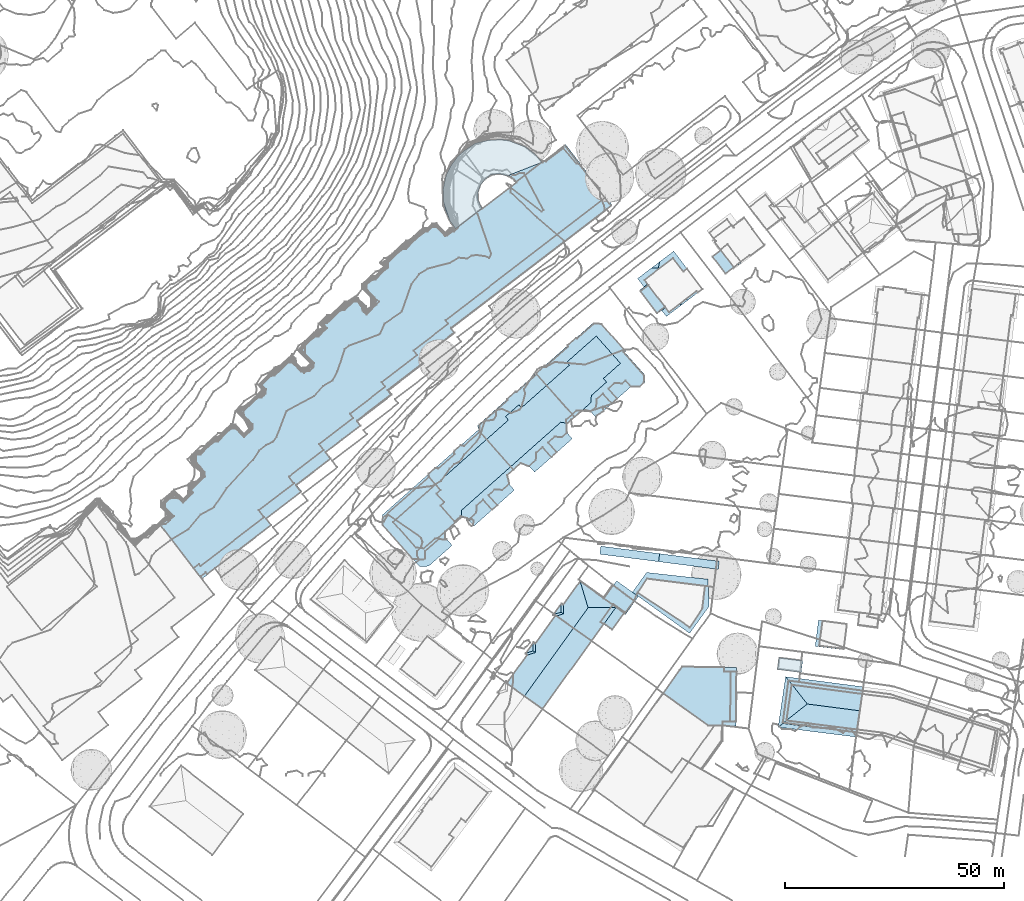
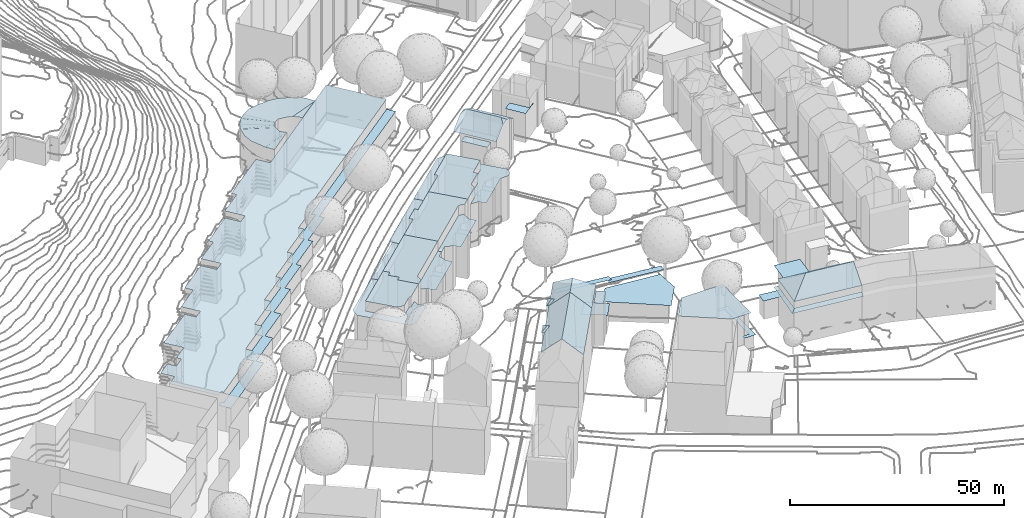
# Not in any storey, part 71 of 477: 30 roofs.
"""IFC4 building model written with IfcOpenShell, lengths in metres."""

from ifc_helpers import new_model, si_unit, frame, origin_with_axes, place, context, subcontext, project, spatial, polygons, element, save


model = new_model("IFC4")

# Units and contexts
model_context = context("Model", 3, precision=1e-05, world=origin_with_axes())
body_context = subcontext(model_context, "Body", "Model", "MODEL_VIEW")
ifc_project = project(units=[si_unit("AREAUNIT", "SQUARE_METRE"), si_unit("LENGTHUNIT", "METRE")], contexts=[model_context])

# Sites, building
site_1_placement = place(None, origin_with_axes())
site_1 = spatial("IfcSite", under=ifc_project, at=site_1_placement, Name="Topoexport Site")
site_2_placement = place(site_1_placement, origin_with_axes())
site_2 = spatial("IfcSite", under=site_1, at=site_2_placement, Name="TPX_BUILDINGS")
building_1_placement = place(site_2_placement, frame((340.8067320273, 67.2771160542, 499.5586), z_axis=(0.0, 0.0, 1.0), x_axis=(1.0, 0.0, 0.0)))
building_1 = spatial("IfcBuilding", under=site_2, at=building_1_placement, Name="Building 0", CompositionType="ELEMENT")

# Roofs
roof_1_placement = place(None, frame((340.8067320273, 67.2771160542, 499.5586), z_axis=(0.0, 0.0, 1.0), x_axis=(1.0, 0.0, 0.0)))
element("IfcRoof", 1, at=roof_1_placement, inside=building_1, Name="Roof 0", context=body_context, shape_type="Tessellation", body=[
    polygons([(15.7719999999, -6.5732000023, 12.5587), (18.0460000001, 0.2822999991, 12.5587), (18.5399999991, -1.9267000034, 12.5587), (19.6270000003, -3.1523000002, 12.5587), (7.5209999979, -7.7851000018, 12.5587), (10.3849999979, -11.3564000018, 12.5587), (18.8200000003, 2.2441999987, 12.5587), (19.4529999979, 1.5312999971, 12.5587), (8.8339999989, -9.6103000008, 12.5587), (7.5929999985, -9.2568000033, 12.5587)], [[[3, 2, 1]], [[4, 3, 1]], [[6, 1, 5]], [[8, 7, 2]], [[2, 7, 5]], [[1, 2, 5]], [[5, 10, 9]], [[5, 9, 6]]]),
])
roof_2_placement = place(None, frame((340.8067320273, 67.2771160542, 499.5586), z_axis=(0.0, 0.0, 1.0), x_axis=(1.0, 0.0, 0.0)))
element("IfcRoof", 2, at=roof_2_placement, inside=building_1, Name="Roof 1", context=body_context, shape_type="Tessellation", body=[
    polygons([(13.2949999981, 8.4668999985, 12.5588), (1.6530000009, -1.8671000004, 12.5588), (5.9439999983, 5.8046999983, 12.5588), (-0.262000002, 0.2959999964, 12.5588), (1.4869999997, 1.8486999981, 12.5588), (11.3770000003, 10.6269999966, 12.5588), (7.3550000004, 7.0566999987, 12.5588)], [[[3, 2, 1]], [[5, 4, 2]], [[7, 1, 6]], [[5, 2, 3]], [[3, 1, 7]]]),
])
roof_3_placement = place(None, frame((340.8067320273, 67.2771160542, 499.5586), z_axis=(0.0, 0.0, 1.0), x_axis=(1.0, 0.0, 0.0)))
element("IfcRoof", 3, at=roof_3_placement, inside=building_1, Name="Roof 2", context=body_context, shape_type="Tessellation", body=[
    polygons([(2.7839999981, -3.1435000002, 15.3595), (1.6530000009, -1.8671000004, 15.3595), (13.2949999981, 8.4667999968, 15.3595), (3.6270000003, -5.9501000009, 15.3595), (18.8200000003, 2.2441999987, 15.3595), (7.5209999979, -7.7851000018, 15.3595), (7.5969999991, -9.3476000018, 15.3595), (6.2359999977, -10.5556000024, 15.3595), (2.8039999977, -6.6796000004, 15.3595), (1.862999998, -3.9589000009, 15.3595)], [[[3, 2, 1]], [[6, 5, 4]], [[3, 4, 5]], [[1, 4, 3]], [[6, 8, 7]], [[4, 9, 6]], [[6, 9, 8]], [[4, 1, 10]]]),
])

# Building
building_2_placement = place(site_2_placement, frame((330.2977320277, 56.1951160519, 500.0165), z_axis=(0.0, 0.0, 1.0), x_axis=(1.0, 0.0, 0.0)))
building_2 = spatial("IfcBuilding", under=site_2, at=building_2_placement, Name="Building 1", CompositionType="ELEMENT")

# Roofs
roof_4_placement = place(None, frame((330.2977320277, 56.1951160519, 500.0165), z_axis=(0.0, 0.0, 1.0), x_axis=(1.0, 0.0, 0.0)))
element("IfcRoof", 4, at=roof_4_placement, inside=building_2, Name="Roof 0", context=body_context, shape_type="Tessellation", body=[
    polygons([(10.2469999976, 11.3779000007, 12.1009), (12.1620000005, 9.2149000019, 12.1009), (2.4809999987, 0.6220999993, 12.1009), (14.3189999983, -1.6279000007, 12.1008), (14.3640000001, -2.9472000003, 12.1008), (12.6629999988, -3.0986000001, 12.1008), (15.9149999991, -4.6942999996, 12.1008), (12.0229999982, -3.1611000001, 12.1008), (10.5579999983, -9.4501999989, 12.1008), (-0.120000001, 0.134800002, 12.1009), (-0.0140000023, 2.2705000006, 12.1009), (7.6979999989, -5.254900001, 12.1008), (9.4509999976, -5.4442999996, 12.1008), (8.5199999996, -9.5995999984, 12.1008), (6.9910000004, -7.8768999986, 12.1008)], [[[3, 2, 1]], [[6, 5, 4]], [[5, 6, 7]], [[7, 6, 8]], [[8, 9, 7]], [[3, 11, 10]], [[11, 3, 1]], [[3, 10, 12]], [[13, 12, 9]], [[9, 15, 14]], [[15, 9, 12]], [[12, 10, 15]], [[13, 9, 8]]]),
])
roof_5_placement = place(None, frame((330.2977320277, 56.1951160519, 500.0165), z_axis=(0.0, 0.0, 1.0), x_axis=(1.0, 0.0, 0.0)))
element("IfcRoof", 5, at=roof_5_placement, inside=building_2, Name="Roof 1", context=body_context, shape_type="Tessellation", body=[
    polygons([(13.2929999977, 7.938500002, 14.9016), (12.3719999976, 7.1231000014, 14.9016), (12.1620000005, 9.2149000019, 14.9016), (2.4809999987, 0.6220999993, 14.9016), (13.3129999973, 4.4024000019, 14.9016), (14.1359999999, 5.1319000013, 14.9016), (7.6979999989, -5.254900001, 14.9016), (12.0229999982, -3.1611000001, 14.9016), (12.6629999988, -3.0986000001, 14.9016), (9.4509999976, -5.4442999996, 14.9016), (16.7449999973, 0.5263999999, 14.9016)], [[[3, 2, 1]], [[2, 3, 4]], [[6, 2, 5]], [[2, 4, 5]], [[8, 4, 7]], [[9, 5, 8]], [[8, 7, 10]], [[9, 11, 5]], [[8, 5, 4]]]),
])

# Building
building_3_placement = place(site_2_placement, frame((352.5117320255, 77.5340160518, 499.5586), z_axis=(0.0, 0.0, 1.0), x_axis=(1.0, 0.0, 0.0)))
building_3 = spatial("IfcBuilding", under=site_2, at=building_3_placement, Name="Building 2", CompositionType="ELEMENT")

# Roofs
roof_6_placement = place(None, frame((352.5117320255, 77.5340160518, 499.5586), z_axis=(0.0, 0.0, 1.0), x_axis=(1.0, 0.0, 0.0)))
element("IfcRoof", 6, at=roof_6_placement, inside=building_3, Name="Roof 0", context=body_context, shape_type="Tessellation", body=[
    polygons([(16.4270000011, -5.8603999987, 12.5587), (19.9140000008, -0.2245999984, 12.5587), (21.1750000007, -1.6455000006, 12.5587), (12.5510000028, -9.2998000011, 12.5587), (11.4640000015, -8.0742000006, 12.5587), (19.8509999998, 1.9219000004, 12.5587), (9.3599999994, -7.2949000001, 12.5587), (18.5270000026, 2.1182000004, 12.5587), (7.7479999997, -8.7256000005, 12.5587), (7.1150000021, -8.0126999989, 12.5587)], [[[3, 2, 1]], [[1, 5, 4]], [[5, 1, 2]], [[7, 2, 6]], [[7, 6, 8]], [[7, 5, 2]], [[10, 9, 7]], [[7, 8, 10]]]),
])
roof_7_placement = place(None, frame((352.5117320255, 77.5340160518, 499.5586), z_axis=(0.0, 0.0, 1.0), x_axis=(1.0, 0.0, 0.0)))
element("IfcRoof", 7, at=roof_7_placement, inside=building_3, Name="Roof 1", context=body_context, shape_type="Tessellation", body=[
    polygons([(9.5549999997, 5.4375, 12.5588), (8.9560000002, 6.1123000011, 12.5588), (15.2990000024, 10.5371000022, 12.5588), (5.8819999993, 3.384800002, 12.5588), (6.3170000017, 7.4219000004, 12.5588), (6.5600000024, 2.621100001, 12.5588), (1.5899999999, -1.7901000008, 12.5588), (0.0, 0.0, 12.5588), (13.0700000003, 13.0361000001, 12.5588), (8.2180000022, 9.1084000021, 12.5588), (12.8830000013, 13.25, 12.5588), (-0.3279999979, 0.370099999, 12.5588), (-0.2809999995, 0.4121000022, 12.5588), (-0.4979999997, 1.3729999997, 12.5588)], [[[3, 2, 1]], [[5, 4, 2]], [[7, 6, 4]], [[4, 8, 7]], [[5, 8, 4]], [[2, 3, 9]], [[9, 11, 10]], [[5, 2, 10]], [[13, 12, 8]], [[5, 14, 13]], [[8, 5, 13]], [[10, 2, 9]]]),
])
roof_8_placement = place(None, frame((352.5117320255, 77.5340160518, 499.5586), z_axis=(0.0, 0.0, 1.0), x_axis=(1.0, 0.0, 0.0)))
element("IfcRoof", 8, at=roof_8_placement, inside=building_3, Name="Roof 2", context=body_context, shape_type="Tessellation", body=[
    polygons([(1.5899999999, -1.7901000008, 15.3595), (6.5600000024, 2.621100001, 15.3595), (7.1150000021, -8.0126999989, 15.3595), (18.5270000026, 2.1182000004, 15.3595), (9.5549999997, 5.4375, 15.3595), (5.8819999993, 3.384800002, 15.3595), (8.9560000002, 6.1123000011, 15.3595), (21.7280000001, 3.3291000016, 15.3595), (20.1009999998, 1.884800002, 15.3595), (15.3010000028, 10.5381000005, 15.3595)], [[[3, 2, 1]], [[5, 2, 4]], [[6, 2, 5]], [[6, 5, 7]], [[2, 3, 4]], [[9, 8, 4]], [[10, 5, 4]], [[10, 4, 8]]]),
])

# Building
building_4_placement = place(site_2_placement, frame((365.5087320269, 90.6648160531, 499.5586), z_axis=(0.0, 0.0, 1.0), x_axis=(1.0, 0.0, 0.0)))
building_4 = spatial("IfcBuilding", under=site_2, at=building_4_placement, Name="Building 3", CompositionType="ELEMENT")

# Roofs
roof_9_placement = place(None, frame((365.5087320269, 90.6648160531, 499.5586), z_axis=(0.0, 0.0, 1.0), x_axis=(1.0, 0.0, 0.0)))
element("IfcRoof", 9, at=roof_9_placement, inside=building_4, Name="Roof 0", context=body_context, shape_type="Tessellation", body=[
    polygons([(2.305999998, -2.5908000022, 12.5588), (0.0769999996, -0.0908000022, 12.5588), (1.9189999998, 1.9239000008, 12.5588), (0.0, 0.0, 12.5588), (0.0219999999, 0.2402999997, 12.5588), (12.4389999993, -6.5107000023, 12.5587), (13.6229999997, -9.9433000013, 12.5587), (12.3619999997, -8.5234000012, 12.5587), (12.5339999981, -4.9149999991, 12.5587), (10.2949999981, -8.4140000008, 12.5587), (7.1680000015, 6.5830999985, 12.5588), (6.9290000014, 2.7188000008, 12.5588), (7.5280000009, 2.0439999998, 12.5588), (-0.1140000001, 0.1191999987, 12.5588), (9.0339999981, 8.2392999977, 12.5588), (13.6550000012, 8.6895000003, 12.5588), (12.8280000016, 11.6064999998, 12.5588), (16.0089999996, -1.8310000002, 12.5587), (21.5590000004, -2.8993999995, 12.5587), (23.7049999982, -2.8564000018, 12.5587), (24.8040000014, -0.2294000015, 12.5587), (24.7529999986, -1.9248000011, 12.5587), (14.7800000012, 11.5742999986, 12.5588), (20.3209999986, 5.3242999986, 12.5587), (15.2800000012, -1.0097000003, 12.5587), (19.186999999, 2.4589999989, 12.5587), (20.1889999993, 4.9707999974, 12.5587), (20.436999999, 5.2021999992, 12.5587)], [[[3, 2, 1]], [[2, 5, 4]], [[8, 7, 6]], [[7, 9, 6]], [[8, 6, 10]], [[3, 5, 2]], [[3, 12, 11]], [[13, 12, 3]], [[14, 4, 5]], [[12, 15, 11]], [[15, 12, 16]], [[15, 16, 17]], [[13, 3, 1]], [[7, 18, 9]], [[7, 19, 18]], [[21, 19, 20]], [[22, 21, 20]], [[16, 23, 17]], [[24, 23, 16]], [[26, 25, 18]], [[26, 21, 27]], [[26, 18, 19]], [[27, 28, 24]], [[24, 16, 27]], [[27, 16, 26]], [[19, 21, 26]]]),
])
roof_10_placement = place(None, frame((365.5087320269, 90.6648160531, 499.5586), z_axis=(0.0, 0.0, 1.0), x_axis=(1.0, 0.0, 0.0)))
element("IfcRoof", 10, at=roof_10_placement, inside=building_4, Name="Roof 1", context=body_context, shape_type="Tessellation", body=[
    polygons([(15.2800000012, -1.0097000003, 15.3595), (2.3040000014, -2.5927000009, 15.3595), (7.5280000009, 2.0439999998, 15.3595), (6.9290000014, 2.7188000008, 15.3595), (13.6550000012, 8.6895000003, 15.3595), (19.186999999, 2.4589999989, 15.3595), (12.5339999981, -4.9149999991, 15.3595), (12.4389999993, -6.5107000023, 15.3595), (8.7309999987, -9.8016999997, 15.3595), (16.0089999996, -1.8310000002, 15.3595)], [[[3, 2, 1]], [[3, 5, 4]], [[6, 5, 3]], [[6, 3, 1]], [[2, 7, 1]], [[9, 8, 7]], [[10, 1, 7]], [[9, 7, 2]]]),
])

# Building
building_5_placement = place(site_2_placement, frame((388.6417320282, 40.6092160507, 499.4665), z_axis=(0.0, 0.0, 1.0), x_axis=(1.0, 0.0, 0.0)))
building_5 = spatial("IfcBuilding", under=site_2, at=building_5_placement, Name="Building 5", CompositionType="ELEMENT")

# Roof
roof_11_placement = place(None, frame((388.6417320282, 40.6092160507, 499.4665), z_axis=(0.0, 0.0, 1.0), x_axis=(1.0, 0.0, 0.0)))
element("IfcRoof", 11, at=roof_11_placement, inside=building_5, Name="Roof 0", context=body_context, shape_type="Tessellation", body=[
    polygons([(11.8759999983, -9.2441999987, 5.8824), (-1.2030000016, 0.1748000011, 5.8824), (2.0449999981, 4.6855000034, 5.8824), (16.0639999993, 3.1279000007, 5.8824), (16.3559999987, -3.0253999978, 5.8824)], [[[3, 2, 1]], [[3, 5, 4]], [[5, 3, 1]]]),
])

# Building
building_6_placement = place(site_2_placement, frame((369.4907320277, 35.7234160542, 499.6315), z_axis=(0.0, 0.0, 1.0), x_axis=(1.0, 0.0, 0.0)))
building_6 = spatial("IfcBuilding", under=site_2, at=building_6_placement, Name="Building 6", CompositionType="ELEMENT")

# Roofs
roof_12_placement = place(None, frame((369.4907320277, 35.7234160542, 499.6315), z_axis=(0.0, 0.0, 1.0), x_axis=(1.0, 0.0, 0.0)))
element("IfcRoof", 12, at=roof_12_placement, inside=building_6, Name="Roof 0", context=body_context, shape_type="Tessellation", body=[
    polygons([(14.1779999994, 1.6035999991, 12.0918), (13.4670000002, 2.1171999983, 12.0918), (13.6149999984, 2.3232999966, 12.0918), (13.237999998, -3.6523000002, 12.0918), (16.2009999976, 0.4609999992, 12.0918), (11.3649999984, -2.3027000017, 12.0918)], [[[3, 2, 1]], [[5, 1, 4]], [[1, 5, 3]], [[6, 4, 1]]]),
])
roof_13_placement = place(None, frame((369.4907320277, 35.7234160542, 499.6315), z_axis=(0.0, 0.0, 1.0), x_axis=(1.0, 0.0, 0.0)))
element("IfcRoof", 13, at=roof_13_placement, inside=building_6, Name="Roof 1", context=body_context, shape_type="Tessellation", body=[
    polygons([(16.4129999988, -0.004800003, 5.3015), (16.2009999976, 0.4609999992, 5.3015), (19.2829999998, 4.0986999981, 5.3015), (13.6149999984, 2.3232999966, 5.3015), (16.0519999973, 0.2548999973, 5.3015), (14.3460000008, 7.6523999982, 5.3015), (13.4670000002, 2.1171999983, 5.3015), (11.4210000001, 3.5898999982, 5.3015)], [[[3, 2, 1]], [[2, 3, 4]], [[5, 1, 2]], [[6, 4, 3]], [[4, 8, 7]], [[8, 4, 6]]]),
])
roof_14_placement = place(None, frame((369.4907320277, 35.7234160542, 499.6315), z_axis=(0.0, 0.0, 1.0), x_axis=(1.0, 0.0, 0.0)))
element("IfcRoof", 14, at=roof_14_placement, inside=building_6, Name="Roof 2", context=body_context, shape_type="Tessellation", body=[
    polygons([(4.4399999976, -3.1738000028, 18.1722), (2.1369999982, 0.1005999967, 14.9805), (7.8079999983, 1.5029999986, 18.1722), (8.5969999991, -6.1464000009, 13.9786), (14.1779999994, 1.6035999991, 13.9786), (11.4210000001, 3.5898999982, 13.9786), (5.9979999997, 7.495199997, 13.9786), (2.1679999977, 2.1728999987, 13.9786), (0.5480000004, -0.3916000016, 14.1346), (1.6199999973, 0.4736999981, 14.9805), (0.0249999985, -0.0175000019, 14.1326), (1.7650000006, 2.4628999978, 13.9786), (1.6469999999, 2.5478999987, 13.9786), (0.0, 0.0, 14.1066), (-0.1240000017, 0.0888999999, 13.9786)], [[[3, 2, 1]], [[1, 4, 3]], [[5, 3, 4]], [[7, 3, 6]], [[3, 5, 6]], [[3, 7, 8]], [[3, 8, 2]], [[9, 1, 2]], [[2, 10, 9]], [[11, 9, 10]], [[10, 2, 12]], [[12, 2, 8]], [[12, 13, 10]], [[13, 11, 10]], [[14, 11, 13]], [[15, 14, 13]]]),
])

# Building
building_7_placement = place(site_2_placement, frame((211.8297320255, 101.9383160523, 526.7541), z_axis=(0.0, 0.0, 1.0), x_axis=(1.0, 0.0, 0.0)))
building_7 = spatial("IfcBuilding", under=site_2, at=building_7_placement, Name="Building 18", CompositionType="ELEMENT")

# Roofs
roof_15_placement = place(None, frame((211.8297320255, 101.9383160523, 526.7541), z_axis=(0.0, 0.0, 1.0), x_axis=(1.0, 0.0, 0.0)))
element("IfcRoof", 15, at=roof_15_placement, inside=building_7, Name="Roof 53", context=body_context, shape_type="Tessellation", body=[
    polygons([(195.4570000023, -54.0927999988, -22.4111), (181.5910000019, -54.183600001, -22.2671), (181.8260000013, -52.3467000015, -22.4111), (195.2220000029, -55.9296999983, -22.2671)], [[[3, 2, 1]], [[4, 1, 2]]]),
])
roof_16_placement = place(None, frame((211.8297320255, 101.9383160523, 526.7541), z_axis=(0.0, 0.0, 1.0), x_axis=(1.0, 0.0, 0.0)))
element("IfcRoof", 16, at=roof_16_placement, inside=building_7, Name="Roof 54", context=body_context, shape_type="Tessellation", body=[
    polygons([(168.1480000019, -52.4618999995, -21.5471), (182.3289999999, -52.4101999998, -21.8351), (182.0930000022, -54.2481000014, -21.5472), (168.3830000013, -50.625, -21.8351)], [[[3, 2, 1]], [[4, 1, 2]]]),
])

# Building
building_8_placement = place(site_2_placement, frame((394.4647320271, 17.5984160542, 499.0235), z_axis=(0.0, 0.0, 1.0), x_axis=(1.0, 0.0, 0.0)))
building_8 = spatial("IfcBuilding", under=site_2, at=building_8_placement, Name="Building 22", CompositionType="ELEMENT")

# Roofs
roof_17_placement = place(None, frame((394.4647320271, 17.5984160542, 499.0235), z_axis=(0.0, 0.0, 1.0), x_axis=(1.0, 0.0, 0.0)))
element("IfcRoof", 17, at=roof_17_placement, inside=building_8, Name="Roof 0", context=body_context, shape_type="Tessellation", body=[
    polygons([(15.3619999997, -6.4326000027, 7.1923), (13.6359999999, -7.3623000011, 7.1923), (13.6490000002, -6.4091000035, 7.1923), (15.4910000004, 5.0146999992, 7.1923), (13.9409999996, 5.0370999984, 7.1923), (13.938000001, 5.995199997, 7.1923), (16.6469999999, -7.3974000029, 7.1923), (16.7989999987, 5.9619999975, 7.1923)], [[[3, 2, 1]], [[6, 5, 4]], [[7, 1, 2]], [[1, 7, 4]], [[8, 4, 7]], [[4, 8, 6]]]),
])
roof_18_placement = place(None, frame((394.4647320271, 17.5984160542, 499.0235), z_axis=(0.0, 0.0, 1.0), x_axis=(1.0, 0.0, 0.0)))
element("IfcRoof", 18, at=roof_18_placement, inside=building_8, Name="Roof 1", context=body_context, shape_type="Tessellation", body=[
    polygons([(11.8350000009, -7.3427000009, 13.8346), (10.2760000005, -7.3496000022, 13.8346), (15.5020000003, 5.9775999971, 13.8347), (3.7740000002, 5.2734999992, 13.8347), (0.0, 0.0, 13.8347), (4.3720000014, 6.1025999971, 13.8347), (15.3509999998, -7.3828000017, 13.8346)], [[[3, 2, 1]], [[4, 2, 3]], [[2, 4, 5]], [[6, 4, 3]], [[1, 7, 3]]]),
])

# Building
building_9_placement = place(site_2_placement, frame((420.8027320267, 23.1951160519, 499.3155), z_axis=(0.0, 0.0, 1.0), x_axis=(1.0, 0.0, 0.0)))
building_9 = spatial("IfcBuilding", under=site_2, at=building_9_placement, Name="Building 24", CompositionType="ELEMENT")

# Roof
roof_19_placement = place(None, frame((420.8027320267, 23.1951160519, 499.3155), z_axis=(0.0, 0.0, 1.0), x_axis=(1.0, 0.0, 0.0)))
element("IfcRoof", 19, at=roof_19_placement, inside=building_9, Name="Roof 0", context=body_context, shape_type="Tessellation", body=[
    polygons([(0.1429999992, 2.6358000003, 5.3154), (5.5839999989, 1.9297000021, 5.3154), (5.2309999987, -0.7802999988, 5.3154), (-0.2089999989, -0.0742000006, 5.3154)], [[[3, 2, 1]], [[1, 4, 3]]]),
])

# Building
building_10_placement = place(site_2_placement, frame((430.1957320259, 28.5057160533, 499.7544), z_axis=(0.0, 0.0, 1.0), x_axis=(1.0, 0.0, 0.0)))
building_10 = spatial("IfcBuilding", under=site_2, at=building_10_placement, Name="Building 29", CompositionType="ELEMENT")

# Roof
roof_20_placement = place(None, frame((430.1957320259, 28.5057160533, 499.7544), z_axis=(0.0, 0.0, 1.0), x_axis=(1.0, 0.0, 0.0)))
element("IfcRoof", 20, at=roof_20_placement, inside=building_10, Name="Roof 0", context=body_context, shape_type="Tessellation", body=[
    polygons([(-0.9419999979, -0.1044999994, 4.9065), (-0.2100000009, 5.878899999, 4.9065), (5.6020000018, -0.9053000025, 4.9065), (6.3350000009, 5.0790999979, 4.9065)], [[[3, 2, 1]], [[2, 3, 4]]]),
])

# Building
building_11_placement = place(site_2_placement, frame((358.3217320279, 20.123816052, 499.6315), z_axis=(0.0, 0.0, 1.0), x_axis=(1.0, 0.0, 0.0)))
building_11 = spatial("IfcBuilding", under=site_2, at=building_11_placement, Name="Building 30", CompositionType="ELEMENT")

# Roof
roof_21_placement = place(None, frame((358.3217320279, 20.123816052, 499.6315), z_axis=(0.0, 0.0, 1.0), x_axis=(1.0, 0.0, 0.0)))
element("IfcRoof", 21, at=roof_21_placement, inside=building_11, Name="Roof 0", context=body_context, shape_type="Tessellation", body=[
    polygons([(6.9349999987, 6.8506000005, 14.9805), (15.6089999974, 12.4248000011, 18.1722), (4.3979999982, -3.1473999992, 18.1722), (8.5529999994, -6.121100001, 13.9786), (19.7679999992, 9.4550999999, 13.9786), (6.935999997, 8.884800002, 13.9786), (6.557, 9.1581999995, 13.9786), (6.4169999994, 7.2246000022, 14.9805), (6.4149999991, 9.259800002, 13.9786), (6.4149999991, 8.9600000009, 14.1266), (11.424999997, 15.1182000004, 13.9786), (11.7170000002, 15.2071000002, 14.1346), (11.193, 15.5811000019, 14.1326), (11.0289999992, 15.4033000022, 13.9786), (10.9039999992, 15.4932000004, 13.9786), (11.0449999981, 15.688500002, 13.9786), (0.5859999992, -0.4188999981, 14.2176), (5.0409999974, 6.2529999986, 13.9786), (0.5869999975, 0.066399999, 13.9786), (0.231999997, 0.3233000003, 13.9786), (0.0659999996, 0.0918000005, 14.1506), (0.0669999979, 0.441399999, 13.9786), (0.0659999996, -0.0467999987, 14.2186), (-0.1660000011, 0.1182000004, 13.9786), (0.0, 0.0, 14.1506), (4.810999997, 6.7197999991, 14.1326), (4.6689999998, 6.5205000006, 13.9786), (4.5199999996, 6.6279999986, 13.9786)], [[[3, 2, 1]], [[3, 4, 2]], [[5, 2, 4]], [[1, 2, 6]], [[8, 1, 7]], [[7, 1, 6]], [[10, 7, 9]], [[7, 10, 8]], [[6, 2, 11]], [[11, 2, 12]], [[12, 13, 11]], [[13, 15, 14]], [[13, 14, 11]], [[13, 16, 15]], [[3, 18, 17]], [[17, 18, 19]], [[22, 21, 20]], [[20, 21, 19]], [[17, 19, 21]], [[17, 21, 23]], [[21, 22, 24]], [[25, 23, 21]], [[24, 25, 21]], [[28, 27, 26]], [[26, 27, 18]], [[18, 1, 8]], [[18, 8, 26]], [[10, 9, 28]], [[26, 8, 10]], [[28, 26, 10]], [[3, 1, 18]]]),
])

# Building
building_12_placement = place(site_2_placement, frame((389.3167320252, 109.6180160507, 499.0156), z_axis=(0.0, 0.0, 1.0), x_axis=(1.0, 0.0, 0.0)))
building_12 = spatial("IfcBuilding", under=site_2, at=building_12_placement, Name="Building 32", CompositionType="ELEMENT")

# Roofs
roof_22_placement = place(None, frame((389.3167320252, 109.6180160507, 499.0156), z_axis=(0.0, 0.0, 1.0), x_axis=(1.0, 0.0, 0.0)))
element("IfcRoof", 22, at=roof_22_placement, inside=building_12, Name="Roof 0", context=body_context, shape_type="Tessellation", body=[
    polygons([(-0.2009999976, 0.2656000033, 9.6401), (5.7160000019, -3.7118999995, 9.6401), (3.870000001, -5.111399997, 9.6401), (1.6130000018, 1.6396000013, 9.6401)], [[[3, 2, 1]], [[4, 1, 2]]]),
])
roof_23_placement = place(None, frame((389.3167320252, 109.6180160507, 499.0156), z_axis=(0.0, 0.0, 1.0), x_axis=(1.0, 0.0, 0.0)))
element("IfcRoof", 23, at=roof_23_placement, inside=building_12, Name="Roof 1", context=body_context, shape_type="Tessellation", body=[
    polygons([(4.3320000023, 6.7119000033, 13.2738), (7.5760000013, 9.1689000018, 10.965), (10.6339999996, 5.1308000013, 10.965), (13.0810000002, -0.3320999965, 11.7299), (10.9120000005, -1.9745999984, 13.2737), (10.6440000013, -1.620099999, 13.2737), (14.1560000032, 0.4814000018, 10.965), (4.0360000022, 5.2470000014, 14.3296), (2.5450000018, 5.3574000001, 13.2738), (9.2550000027, -2.6855999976, 13.7377), (3.2840000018, 4.3828000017, 13.2737), (9.4210000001, -1.8642999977, 14.3296), (9.125, -3.3290999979, 13.2737), (-0.6989999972, 2.9004000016, 10.965), (5.881000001, -5.7861999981, 10.965), (10.2460000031, -1.9247999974, 13.7447)], [[[3, 2, 1]], [[1, 4, 3]], [[6, 5, 4]], [[7, 3, 4]], [[4, 1, 6]], [[1, 9, 8]], [[8, 9, 10]], [[10, 9, 11]], [[12, 8, 10]], [[10, 11, 13]], [[14, 11, 9]], [[11, 14, 15]], [[15, 13, 11]], [[10, 13, 5]], [[16, 12, 10]], [[5, 16, 10]], [[1, 8, 6]], [[12, 16, 6]], [[5, 6, 16]], [[12, 6, 8]]]),
])

# Building
building_13_placement = place(site_2_placement, frame((405.0787320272, 122.9930160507, 499.2066), z_axis=(0.0, 0.0, 1.0), x_axis=(1.0, 0.0, 0.0)))
building_13 = spatial("IfcBuilding", under=site_2, at=building_13_placement, Name="Building 33", CompositionType="ELEMENT")

# Roof
roof_24_placement = place(None, frame((405.0787320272, 122.9930160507, 499.2066), z_axis=(0.0, 0.0, 1.0), x_axis=(1.0, 0.0, 0.0)))
element("IfcRoof", 24, at=roof_24_placement, inside=building_13, Name="Roof 0", context=body_context, shape_type="Tessellation", body=[
    polygons([(0.4899999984, -5.3691999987, 8.2642), (2.5229999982, -3.8632999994, 8.2642), (5.6070000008, -7.8857999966, 8.2642), (7.2789999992, -6.8085999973, 8.2642), (3.5839999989, -9.5458999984, 8.2642), (7.1750000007, -6.6679999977, 8.2642)], [[[3, 2, 1]], [[3, 5, 4]], [[5, 3, 1]], [[3, 4, 6]]]),
])

# Building
building_14_placement = place(site_2_placement, frame((287.111732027, 46.2742160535, 500.3625), z_axis=(0.0, 0.0, 1.0), x_axis=(1.0, 0.0, 0.0)))
building_14 = spatial("IfcBuilding", under=site_2, at=building_14_placement, Name="Building 65", CompositionType="ELEMENT")

# Roofs
roof_25_placement = place(None, frame((287.111732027, 46.2742160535, 500.3625), z_axis=(0.0, 0.0, 1.0), x_axis=(1.0, 0.0, 0.0)))
element("IfcRoof", 25, at=roof_25_placement, inside=building_14, Name="Roof 0", context=body_context, shape_type="Tessellation", body=[
    polygons([(58.2199999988, 55.8594000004, 7.1803), (95.7170000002, 83.0341999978, 7.1803), (58.932, 54.9345999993, 7.1803), (94.2949999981, 84.8827999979, 7.1803), (50.3110000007, 49.7714999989, 7.1803), (51.1259999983, 48.7148999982, 7.1803), (57.6119999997, 56.6493999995, 7.1803), (51.7800000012, 47.8662, 7.1803), (43.0359999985, 42.4872999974, 7.1803), (59.686999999, 53.9511999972, 7.1803), (52.495000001, 46.9355999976, 7.1803), (43.8249999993, 41.4657999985, 7.1803), (37.3500000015, 33.7159000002, 7.1803), (36.5020000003, 34.3154999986, 7.1803), (45.1600000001, 39.7275999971, 7.1803), (44.4059999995, 40.7099999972, 7.1803), (29.7670000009, 27.0273999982, 7.1803), (38.1750000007, 32.6425999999, 7.1803), (35.7699999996, 35.2656999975, 7.1803), (38.131000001, 32.6006000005, 7.1803), (28.7509999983, 28.3476999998, 7.1803), (30.2039999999, 26.5136999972, 7.1803), (30.180999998, 26.4892999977, 7.1803), (21.7800000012, 20.8798999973, 7.1803), (22.9389999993, 19.3740999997, 7.1803), (23.5199999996, 19.0859999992, 7.1803), (14.9120000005, 13.1963, 7.1803), (31.2809999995, 25.0595999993, 7.1803), (24.7349999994, 17.5068999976, 7.1803), (16.1149999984, 11.6327999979, 7.1803), (16.6889999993, 11.3125, 7.1803), (1.8920000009, -2.4599000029, 7.1803), (17.8409999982, 9.8154999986, 7.1803), (0.0, 0.0, 7.1803), (1.2320000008, 0.9492000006, 7.1803), (1.6050000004, 0.4657999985, 7.1803)], [[[3, 2, 1]], [[2, 4, 1]], [[6, 3, 5]], [[7, 1, 4]], [[6, 8, 3]], [[5, 3, 1]], [[8, 6, 9]], [[8, 10, 3]], [[12, 11, 8]], [[15, 14, 13]], [[16, 14, 15]], [[12, 16, 11]], [[18, 13, 17]], [[19, 16, 12]], [[8, 9, 12]], [[20, 18, 17]], [[13, 14, 21]], [[17, 22, 20]], [[14, 16, 19]], [[21, 17, 13]], [[24, 23, 22]], [[24, 25, 23]], [[25, 27, 26]], [[25, 28, 23]], [[24, 22, 17]], [[26, 28, 25]], [[30, 29, 26]], [[30, 31, 29]], [[33, 31, 32]], [[36, 35, 34]], [[36, 34, 32]], [[31, 36, 32]], [[36, 31, 30]], [[30, 26, 27]]]),
])
roof_26_placement = place(None, frame((287.111732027, 46.2742160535, 500.3625), z_axis=(0.0, 0.0, 1.0), x_axis=(1.0, 0.0, 0.0)))
element("IfcRoof", 26, at=roof_26_placement, inside=building_14, Name="Roof 4", context=body_context, shape_type="Tessellation", body=[
    polygons([(1.2320000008, 0.9492000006, 10.076), (-5.1009999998, 11.7870999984, 10.0761), (14.9120000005, 13.1963, 10.0761), (-7.5949999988, 9.8671999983, 10.0761), (0.0, 0.0, 10.0761), (-7.251000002, 14.5810999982, 10.0761), (-2.5910000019, 15.3271999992, 10.0761), (-0.1440000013, 17.2118999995, 10.0761), (28.7509999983, 28.3476999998, 10.0761), (16.1149999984, 11.6327999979, 10.076), (1.6050000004, 0.4657999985, 10.076), (21.7800000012, 20.8798999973, 10.0761), (22.9389999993, 19.373999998, 10.0761), (29.7670000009, 27.0273999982, 10.0761), (35.7699999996, 35.2656999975, 10.0761), (36.5020000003, 34.3154999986, 10.0761), (2.631000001, 20.9150999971, 10.0761), (-3.9640000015, 17.111399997, 10.0761), (-0.9030000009, 18.1963, 10.0761), (11.3370000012, 30.4052999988, 10.0761), (11.4160000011, 30.2949000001, 10.0761), (9.6420000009, 32.5976999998, 10.0761), (-0.4759999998, 24.9521999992, 10.0761), (13.373999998, 31.8007999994, 10.0761), (16.2939999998, 40.1464999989, 10.0761), (25.2809999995, 44.6347999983, 10.0761), (27.3409999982, 46.2197999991, 10.0761), (10.425999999, 35.6308999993, 10.0761), (14.9800000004, 41.8544999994, 10.0761), (22.7939999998, 47.8671999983, 10.0761), (43.0359999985, 42.4872999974, 10.0761), (43.8249999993, 41.4657999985, 10.0761), (50.3110000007, 49.7714999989, 10.0761), (39.8319999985, 58.6923999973, 10.0761), (30.1050000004, 54.7197999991, 10.0761), (24.2609999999, 50.2216999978, 10.0761), (41.8640000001, 60.2568999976, 10.0761), (57.6119999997, 56.6493999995, 10.0761), (51.1259999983, 48.7148999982, 10.0761), (58.2199999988, 55.8594000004, 10.0761), (57.8099999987, 76.0439999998, 10.0761), (94.2949999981, 84.8827999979, 10.0761), (44.4690000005, 68.7021999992, 10.0761), (37.4019999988, 61.8515999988, 10.0761), (29.3720000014, 55.6719000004, 10.0761), (38.7520000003, 64.3017999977, 10.0761), (48.7690000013, 73.6845999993, 10.0761), (44.305999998, 68.9091999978, 10.0761), (43.6530000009, 69.753899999, 10.0761), (73.7399999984, 88.3037, 10.0761), (79.7149999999, 92.9023999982, 10.0761), (55.5920000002, 78.9257999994, 10.0761), (84.9959999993, 96.9668000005, 10.0761)], [[[3, 2, 1]], [[5, 1, 4]], [[2, 7, 6]], [[2, 4, 1]], [[8, 7, 2]], [[8, 2, 9]], [[1, 11, 10]], [[3, 13, 12]], [[10, 3, 1]], [[12, 9, 2]], [[9, 12, 14]], [[9, 16, 15]], [[8, 9, 17]], [[3, 12, 2]], [[17, 9, 15]], [[6, 7, 18]], [[17, 19, 8]], [[21, 20, 17]], [[23, 20, 22]], [[23, 17, 20]], [[17, 24, 21]], [[24, 26, 25]], [[27, 26, 24]], [[25, 28, 24]], [[30, 29, 25]], [[25, 26, 30]], [[17, 15, 24]], [[31, 24, 15]], [[32, 31, 15]], [[27, 24, 33]], [[33, 24, 31]], [[35, 27, 34]], [[35, 36, 27]], [[37, 34, 27]], [[37, 27, 38]], [[39, 33, 31]], [[33, 40, 38]], [[38, 41, 37]], [[41, 38, 42]], [[38, 27, 33]], [[43, 37, 41]], [[45, 35, 44]], [[37, 43, 46]], [[49, 48, 47]], [[47, 48, 43]], [[35, 34, 44]], [[51, 50, 42]], [[41, 42, 50]], [[41, 52, 47]], [[47, 43, 41]], [[53, 51, 42]]]),
])
roof_27_placement = place(None, frame((287.111732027, 46.2742160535, 500.3625), z_axis=(0.0, 0.0, 1.0), x_axis=(1.0, 0.0, 0.0)))
element("IfcRoof", 27, at=roof_27_placement, inside=building_14, Name="Roof 5", context=body_context, shape_type="Tessellation", body=[
    polygons([(72.7749999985, 89.2109999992, 9.8641), (71.7010000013, 89.7392999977, 10.0061), (71.7829999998, 89.7665999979, 10.0041), (72.9890000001, 89.1044999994, 9.8361), (79.6519999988, 92.8534999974, 9.8361), (73.5579999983, 88.5312999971, 9.8361), (73.25, 88.8398999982, 9.8361), (73.7740000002, 88.3290999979, 9.8361)], [[[3, 2, 1]], [[5, 1, 4]], [[1, 5, 3]], [[5, 7, 6]], [[8, 5, 6]], [[5, 4, 7]]]),
])
roof_28_placement = place(None, frame((287.111732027, 46.2742160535, 500.3625), z_axis=(0.0, 0.0, 1.0), x_axis=(1.0, 0.0, 0.0)))
element("IfcRoof", 28, at=roof_28_placement, inside=building_14, Name="Roof 6", context=body_context, shape_type="Tessellation", body=[
    polygons([(70.0219999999, 90.1699000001, 10.1411), (67.4470000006, 97.9140999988, 10.1411), (70.4869999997, 98.0429999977, 10.1411), (72.0909999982, 97.8105999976, 10.1411), (70.0929999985, 90.1484999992, 10.1351), (71.7019999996, 89.7392999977, 10.0061), (68.0170000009, 90.0361999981, 10.4021), (65.0579999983, 97.3466999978, 10.3241), (64.381000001, 97.1855999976, 10.3761), (69.6559999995, 90.1464999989, 10.1891), (69.2219999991, 90.1132999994, 10.2451), (78.0089999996, 94.7294999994, 10.1411), (75.7809999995, 96.3847999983, 10.1411), (79.6539999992, 92.8544999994, 9.8361), (71.7829999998, 89.7665999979, 10.0041), (61.7819999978, 95.4219000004, 10.753), (63.8220000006, 96.8057000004, 10.4571), (67.1900000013, 89.3798999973, 10.6), (66.557, 88.8691999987, 10.753), (65.557, 87.5995999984, 11.102), (60.3469999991, 94.1474999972, 10.877), (65.0009999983, 85.9736999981, 11.528), (57.682, 89.7196999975, 11.353), (65.5130000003, 87.6270000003, 11.102), (58.6970000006, 91.8827999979, 11.102), (65.0410000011, 84.2011999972, 11.528), (57.1569999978, 83.7168000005, 11.7499), (57.0460000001, 86.6904999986, 11.528), (57.5599999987, 81.8847999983, 12.0879), (58.5159999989, 79.6083999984, 12.0879), (65.8959999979, 82.2675999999, 12.0879), (59.8660000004, 77.623999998, 12.0879)], [[[3, 2, 1]], [[1, 4, 3]], [[5, 4, 1]], [[4, 5, 6]], [[8, 7, 2]], [[7, 8, 9]], [[10, 1, 2]], [[11, 2, 7]], [[2, 11, 10]], [[12, 4, 6]], [[4, 12, 13]], [[15, 14, 12]], [[15, 12, 6]], [[17, 16, 7]], [[7, 9, 17]], [[18, 7, 16]], [[16, 19, 18]], [[19, 21, 20]], [[21, 19, 16]], [[20, 23, 22]], [[25, 23, 24]], [[20, 24, 23]], [[21, 25, 24]], [[21, 24, 20]], [[28, 27, 26]], [[22, 28, 26]], [[23, 28, 22]], [[30, 27, 29]], [[27, 30, 26]], [[31, 26, 30]], [[30, 32, 31]]]),
])

# Building
building_15_placement = place(site_2_placement, frame((421.872732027, 10.8992160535, 499.1825), z_axis=(0.0, 0.0, 1.0), x_axis=(1.0, 0.0, 0.0)))
building_15 = spatial("IfcBuilding", under=site_2, at=building_15_placement, Name="Building 66", CompositionType="ELEMENT")

# Roofs
roof_29_placement = place(None, frame((421.872732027, 10.8992160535, 499.1825), z_axis=(0.0, 0.0, 1.0), x_axis=(1.0, 0.0, 0.0)))
element("IfcRoof", 29, at=roof_29_placement, inside=building_15, Name="Roof 0", context=body_context, shape_type="Tessellation", body=[
    polygons([(5.550999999, 4.307599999, 15.8974), (18.2749999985, 7.3105999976, 12.6067), (17.6270000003, 2.7470999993, 15.8974), (18.3209999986, 7.6719000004, 12.3467), (1.4210000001, 9.5878999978, 12.5357), (1.188000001, 9.8847999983, 12.3468), (0.0879999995, -0.0117000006, 12.4717), (-0.1110000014, -0.1689000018, 12.3468), (16.9059999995, -2.3662, 12.3467), (16.9230000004, -2.246100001, 12.4297)], [[[3, 2, 1]], [[5, 2, 4]], [[5, 1, 2]], [[6, 5, 4]], [[5, 6, 7]], [[5, 7, 1]], [[7, 6, 8]], [[7, 8, 9]], [[1, 7, 10]], [[10, 3, 1]], [[10, 7, 9]]]),
])
roof_30_placement = place(None, frame((421.872732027, 10.8992160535, 499.1825), z_axis=(0.0, 0.0, 1.0), x_axis=(1.0, 0.0, 0.0)))
element("IfcRoof", 30, at=roof_30_placement, inside=building_15, Name="Roof 1", context=body_context, shape_type="Tessellation", body=[
    polygons([(8.818, -1.2334000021, 10.4959), (-1.1110000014, -1.001000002, 9.83), (0.0289999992, -0.1347000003, 10.4919), (16.9239999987, -2.246100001, 10.4999), (16.7820000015, -3.25, 9.83), (1.3150000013, 9.6015999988, 10.391), (1.2699999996, 9.6074000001, 10.36), (0.5989999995, 10.5497999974, 9.83), (0.0, -0.0371000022, 10.4639), (0.0, 0.0, 10.4599), (0.0020000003, -0.0752000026, 10.4689), (0.0069999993, -0.1123000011, 10.4759), (18.2749999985, 7.3105999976, 10.4469), (10.5449999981, 8.3544999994, 10.4219), (18.3999999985, 8.2344000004, 9.83), (0.0179999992, -0.1317999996, 10.4339), (0.0069999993, -0.1123000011, 10.276), (0.0289999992, -0.1347000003, 10.292), (0.0179999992, -0.1317999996, 10.334)], [[[3, 2, 1]], [[1, 5, 4]], [[5, 1, 2]], [[8, 7, 6]], [[10, 2, 9]], [[2, 10, 7]], [[7, 8, 2]], [[11, 9, 2]], [[3, 12, 2]], [[11, 2, 12]], [[15, 14, 13]], [[8, 6, 14]], [[8, 14, 15]], [[3, 16, 12]], [[19, 18, 17]]]),
])

save(model, "model.ifc")
